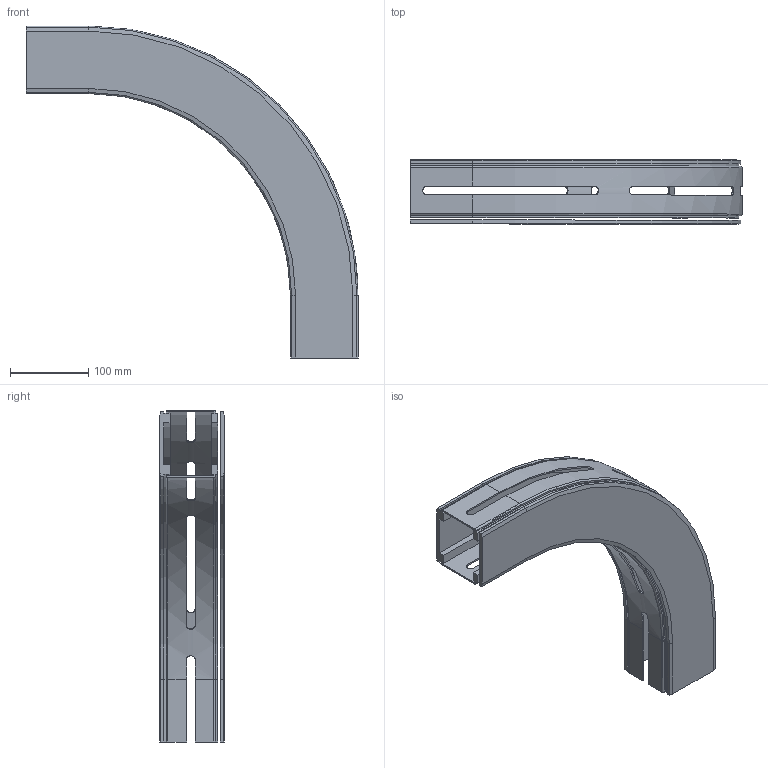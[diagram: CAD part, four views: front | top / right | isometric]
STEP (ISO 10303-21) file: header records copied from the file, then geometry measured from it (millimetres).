
FILE_DESCRIPTION(/* description */ ('GLIDKURVA SERIE 530'),/* implementation_level */ '2;1');
FILE_NAME(/* name */ '530-5375+830-2000-01.stp',/* time_stamp */ '2022-09-20T14:53:08+02:00',/* author */ ('Mathias.Dore'),/* organization */ ('CARRYLINE'),/* preprocessor_version */ 'ST-DEVELOPER v19.2',/* originating_system */ 'Autodesk Inventor 2023',/* authorisation */ '');
FILE_SCHEMA (('AUTOMOTIVE_DESIGN { 1 0 10303 214 3 1 1 }'));
Length unit declared in the file: millimetre
Products named in the file (1): 530-5375+830-2000-01
Bounding box: 423 x 82 x 423 mm (x, y, z)
Volume: 913831.3 mm3; surface area: 437896.2 mm2
Topology: 2 solids, 2 shells, 171 faces, 482 edges, 316 vertices
Faces by surface type: plane 111, cylinder 30, bspline 22, torus 4, cone 4
Entity records: 6085 total; most frequent: CARTESIAN_POINT 1612, ORIENTED_EDGE 964, DIRECTION 830, EDGE_CURVE 482, LINE 346, VECTOR 346, VERTEX_POINT 316, AXIS2_PLACEMENT_3D 242
